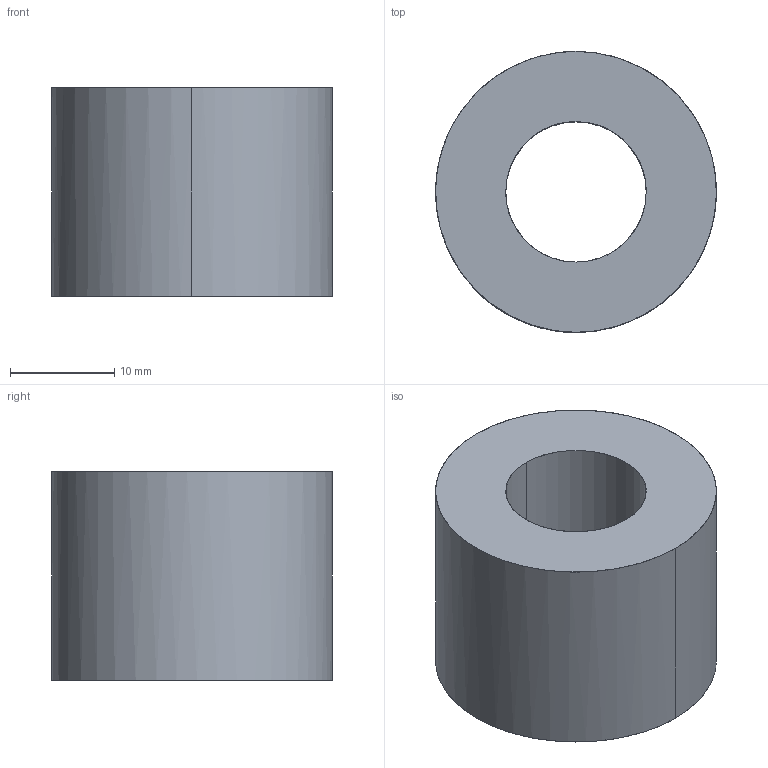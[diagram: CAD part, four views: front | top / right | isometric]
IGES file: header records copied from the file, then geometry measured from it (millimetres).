
Global section: file name: E:\UnigraphicsGraphicData\MISUMI_PRESS-PARTS\IGES\3d_swg27-20_00749_r00.igs; native system: NX V5.0; preprocessor: UGS NX IGES V5.0; author: MISUMI; date: 20110105.163256; units: millimetre
Bounding box: 27 x 27 x 20 mm (x, y, z)
Surface area: 3402.8 mm2 (no closed solid volume)
Topology: 0 solids, 0 shells, 6 faces, 64 edges, 64 vertices
Faces by surface type: bspline 6
